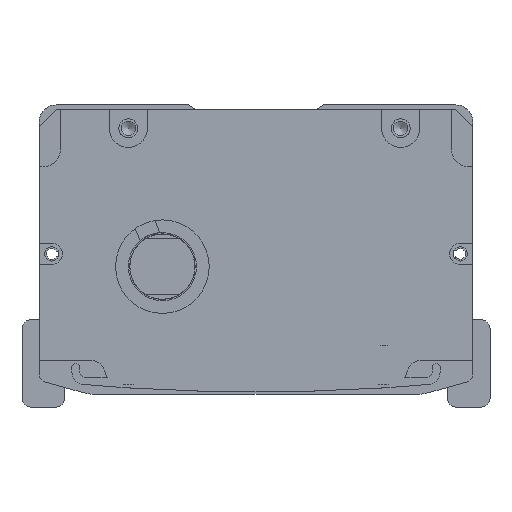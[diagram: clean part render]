
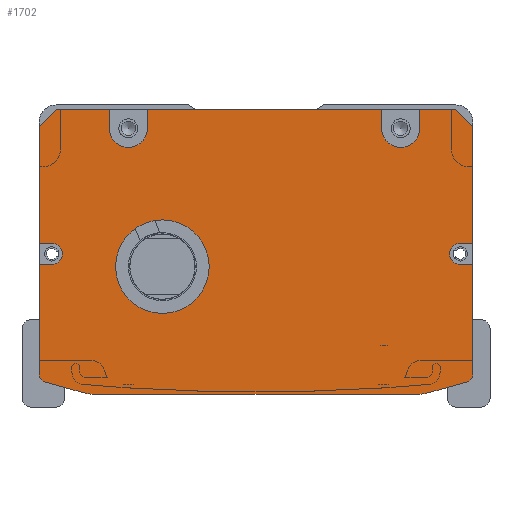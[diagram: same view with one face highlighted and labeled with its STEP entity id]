
A CAD part, front view. The second image highlights one B-rep face of the part: STEP entity #1702.
In plain terms, the highlighted planar face has unit normal (0, -1, 0).
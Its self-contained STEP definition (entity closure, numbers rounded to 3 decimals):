
#1014=FACE_BOUND('',#3192,.T.);
#1015=FACE_BOUND('',#3193,.T.);
#1702=ADVANCED_FACE('',(#1014,#1015),#2327,.F.);
#2327=PLANE('',#12171);
#3192=EDGE_LOOP('',(#5623,#5624,#5625,#5626,#5627,#5628,#5629,#5630,#5631,
#5632,#5633,#5634,#5635,#5636,#5637,#5638,#5639,#5640,#5641,#5642,#5643,
#5644,#5645,#5646,#5647,#5648,#5649,#5650));
#3193=EDGE_LOOP('',(#5651));
#4199=CIRCLE('',#12162,4.5);
#4200=CIRCLE('',#12163,4.5);
#4201=CIRCLE('',#12164,2.5);
#4202=CIRCLE('',#12165,2.);
#4203=CIRCLE('',#12166,10.);
#4204=CIRCLE('',#12167,10.);
#4205=CIRCLE('',#12168,2.);
#4206=CIRCLE('',#12169,2.5);
#4207=CIRCLE('',#12170,11.);
#5623=ORIENTED_EDGE('',*,*,#9032,.T.);
#5624=ORIENTED_EDGE('',*,*,#9452,.T.);
#5625=ORIENTED_EDGE('',*,*,#9453,.T.);
#5626=ORIENTED_EDGE('',*,*,#9454,.F.);
#5627=ORIENTED_EDGE('',*,*,#9455,.T.);
#5628=ORIENTED_EDGE('',*,*,#9456,.F.);
#5629=ORIENTED_EDGE('',*,*,#9457,.T.);
#5630=ORIENTED_EDGE('',*,*,#9458,.F.);
#5631=ORIENTED_EDGE('',*,*,#9459,.T.);
#5632=ORIENTED_EDGE('',*,*,#9460,.F.);
#5633=ORIENTED_EDGE('',*,*,#9461,.T.);
#5634=ORIENTED_EDGE('',*,*,#9462,.T.);
#5635=ORIENTED_EDGE('',*,*,#9064,.T.);
#5636=ORIENTED_EDGE('',*,*,#9463,.T.);
#5637=ORIENTED_EDGE('',*,*,#9464,.T.);
#5638=ORIENTED_EDGE('',*,*,#9465,.T.);
#5639=ORIENTED_EDGE('',*,*,#9060,.T.);
#5640=ORIENTED_EDGE('',*,*,#9466,.T.);
#5641=ORIENTED_EDGE('',*,*,#9467,.T.);
#5642=ORIENTED_EDGE('',*,*,#9468,.T.);
#5643=ORIENTED_EDGE('',*,*,#9469,.T.);
#5644=ORIENTED_EDGE('',*,*,#9470,.T.);
#5645=ORIENTED_EDGE('',*,*,#9471,.T.);
#5646=ORIENTED_EDGE('',*,*,#9472,.T.);
#5647=ORIENTED_EDGE('',*,*,#9036,.T.);
#5648=ORIENTED_EDGE('',*,*,#9473,.T.);
#5649=ORIENTED_EDGE('',*,*,#9474,.T.);
#5650=ORIENTED_EDGE('',*,*,#9475,.T.);
#5651=ORIENTED_EDGE('',*,*,#9476,.T.);
#7876=VERTEX_POINT('',#16794);
#7877=VERTEX_POINT('',#16796);
#7880=VERTEX_POINT('',#16802);
#7881=VERTEX_POINT('',#16804);
#7902=VERTEX_POINT('',#16849);
#7903=VERTEX_POINT('',#16851);
#7906=VERTEX_POINT('',#16857);
#7907=VERTEX_POINT('',#16859);
#8174=VERTEX_POINT('',#17660);
#8175=VERTEX_POINT('',#17662);
#8176=VERTEX_POINT('',#17664);
#8177=VERTEX_POINT('',#17666);
#8178=VERTEX_POINT('',#17668);
#8179=VERTEX_POINT('',#17670);
#8180=VERTEX_POINT('',#17672);
#8181=VERTEX_POINT('',#17674);
#8182=VERTEX_POINT('',#17676);
#8183=VERTEX_POINT('',#17678);
#8184=VERTEX_POINT('',#17681);
#8185=VERTEX_POINT('',#17683);
#8186=VERTEX_POINT('',#17686);
#8187=VERTEX_POINT('',#17688);
#8188=VERTEX_POINT('',#17690);
#8189=VERTEX_POINT('',#17692);
#8190=VERTEX_POINT('',#17694);
#8191=VERTEX_POINT('',#17696);
#8192=VERTEX_POINT('',#17699);
#8193=VERTEX_POINT('',#17701);
#8194=VERTEX_POINT('',#17704);
#9032=EDGE_CURVE('',#7877,#7876,#10493,.T.);
#9036=EDGE_CURVE('',#7881,#7880,#10497,.T.);
#9060=EDGE_CURVE('',#7903,#7902,#10521,.T.);
#9064=EDGE_CURVE('',#7907,#7906,#10525,.T.);
#9452=EDGE_CURVE('',#7876,#8174,#10758,.T.);
#9453=EDGE_CURVE('',#8174,#8175,#10759,.T.);
#9454=EDGE_CURVE('',#8176,#8175,#10760,.T.);
#9455=EDGE_CURVE('',#8176,#8177,#4199,.T.);
#9456=EDGE_CURVE('',#8178,#8177,#10761,.T.);
#9457=EDGE_CURVE('',#8178,#8179,#10762,.T.);
#9458=EDGE_CURVE('',#8180,#8179,#10763,.T.);
#9459=EDGE_CURVE('',#8180,#8181,#4200,.T.);
#9460=EDGE_CURVE('',#8182,#8181,#10764,.T.);
#9461=EDGE_CURVE('',#8182,#8183,#10765,.T.);
#9462=EDGE_CURVE('',#8183,#7907,#10766,.T.);
#9463=EDGE_CURVE('',#7906,#8184,#10767,.T.);
#9464=EDGE_CURVE('',#8184,#8185,#4201,.T.);
#9465=EDGE_CURVE('',#8185,#7903,#10768,.T.);
#9466=EDGE_CURVE('',#7902,#8186,#4202,.T.);
#9467=EDGE_CURVE('',#8186,#8187,#10769,.T.);
#9468=EDGE_CURVE('',#8187,#8188,#4203,.T.);
#9469=EDGE_CURVE('',#8188,#8189,#10770,.T.);
#9470=EDGE_CURVE('',#8189,#8190,#4204,.T.);
#9471=EDGE_CURVE('',#8190,#8191,#10771,.T.);
#9472=EDGE_CURVE('',#8191,#7881,#4205,.T.);
#9473=EDGE_CURVE('',#7880,#8192,#10772,.T.);
#9474=EDGE_CURVE('',#8192,#8193,#4206,.T.);
#9475=EDGE_CURVE('',#8193,#7877,#10773,.T.);
#9476=EDGE_CURVE('',#8194,#8194,#4207,.T.);
#10493=LINE('',#16795,#11146);
#10497=LINE('',#16803,#11150);
#10521=LINE('',#16850,#11174);
#10525=LINE('',#16858,#11178);
#10758=LINE('',#17659,#11411);
#10759=LINE('',#17661,#11412);
#10760=LINE('',#17663,#11413);
#10761=LINE('',#17667,#11414);
#10762=LINE('',#17669,#11415);
#10763=LINE('',#17671,#11416);
#10764=LINE('',#17675,#11417);
#10765=LINE('',#17677,#11418);
#10766=LINE('',#17679,#11419);
#10767=LINE('',#17680,#11420);
#10768=LINE('',#17684,#11421);
#10769=LINE('',#17687,#11422);
#10770=LINE('',#17691,#11423);
#10771=LINE('',#17695,#11424);
#10772=LINE('',#17698,#11425);
#10773=LINE('',#17702,#11426);
#11146=VECTOR('',#13404,1.);
#11150=VECTOR('',#13408,1.);
#11174=VECTOR('',#13434,1.);
#11178=VECTOR('',#13438,1.);
#11411=VECTOR('',#14273,1.);
#11412=VECTOR('',#14274,1.);
#11413=VECTOR('',#14275,1.);
#11414=VECTOR('',#14278,1.);
#11415=VECTOR('',#14279,1.);
#11416=VECTOR('',#14280,1.);
#11417=VECTOR('',#14283,1.);
#11418=VECTOR('',#14284,1.);
#11419=VECTOR('',#14285,1.);
#11420=VECTOR('',#14286,1.);
#11421=VECTOR('',#14289,1.);
#11422=VECTOR('',#14292,1.);
#11423=VECTOR('',#14295,1.);
#11424=VECTOR('',#14298,1.);
#11425=VECTOR('',#14301,1.);
#11426=VECTOR('',#14304,1.);
#12162=AXIS2_PLACEMENT_3D('',#17665,#14276,#14277);
#12163=AXIS2_PLACEMENT_3D('',#17673,#14281,#14282);
#12164=AXIS2_PLACEMENT_3D('',#17682,#14287,#14288);
#12165=AXIS2_PLACEMENT_3D('',#17685,#14290,#14291);
#12166=AXIS2_PLACEMENT_3D('',#17689,#14293,#14294);
#12167=AXIS2_PLACEMENT_3D('',#17693,#14296,#14297);
#12168=AXIS2_PLACEMENT_3D('',#17697,#14299,#14300);
#12169=AXIS2_PLACEMENT_3D('',#17700,#14302,#14303);
#12170=AXIS2_PLACEMENT_3D('',#17703,#14305,#14306);
#12171=AXIS2_PLACEMENT_3D('',#17705,#14307,#14308);
#13404=DIRECTION('',(0.,0.,1.));
#13408=DIRECTION('',(0.,0.,1.));
#13434=DIRECTION('',(0.,0.,-1.));
#13438=DIRECTION('',(0.,0.,-1.));
#14273=DIRECTION('',(-0.707,0.,0.707));
#14274=DIRECTION('',(-1.,0.,0.));
#14275=DIRECTION('',(0.,0.,1.));
#14276=DIRECTION('',(0.,1.,0.));
#14277=DIRECTION('',(0.,0.,1.));
#14278=DIRECTION('',(0.,0.,-1.));
#14279=DIRECTION('',(-1.,0.,0.));
#14280=DIRECTION('',(0.,0.,1.));
#14281=DIRECTION('',(0.,1.,0.));
#14282=DIRECTION('',(0.,0.,1.));
#14283=DIRECTION('',(0.,0.,-1.));
#14284=DIRECTION('',(-1.,0.,0.));
#14285=DIRECTION('',(-0.707,0.,-0.707));
#14286=DIRECTION('',(1.,0.,0.));
#14287=DIRECTION('',(0.,1.,0.));
#14288=DIRECTION('',(0.,0.,1.));
#14289=DIRECTION('',(-1.,0.,0.));
#14290=DIRECTION('',(0.,-1.,0.));
#14291=DIRECTION('',(0.,0.,1.));
#14292=DIRECTION('',(0.963,0.,-0.269));
#14293=DIRECTION('',(0.,-1.,0.));
#14294=DIRECTION('',(0.,0.,1.));
#14295=DIRECTION('',(1.,0.,0.));
#14296=DIRECTION('',(0.,-1.,0.));
#14297=DIRECTION('',(0.,0.,-1.));
#14298=DIRECTION('',(0.963,0.,0.269));
#14299=DIRECTION('',(0.,-1.,0.));
#14300=DIRECTION('',(0.,0.,-1.));
#14301=DIRECTION('',(-1.,0.,0.));
#14302=DIRECTION('',(0.,1.,0.));
#14303=DIRECTION('',(0.,0.,1.));
#14304=DIRECTION('',(1.,0.,0.));
#14305=DIRECTION('',(0.,1.,0.));
#14306=DIRECTION('',(0.,0.,1.));
#14307=DIRECTION('',(0.,1.,0.));
#14308=DIRECTION('',(1.,0.,0.));
#16794=CARTESIAN_POINT('',(47.808,-907.5,-5.));
#16795=CARTESIAN_POINT('',(47.808,-907.5,-1.));
#16796=CARTESIAN_POINT('',(47.808,-907.5,-32.5));
#16802=CARTESIAN_POINT('',(47.808,-907.5,-37.5));
#16803=CARTESIAN_POINT('',(47.808,-907.5,-1.));
#16804=CARTESIAN_POINT('',(47.808,-907.5,-63.212));
#16849=CARTESIAN_POINT('',(-54.192,-907.5,-63.212));
#16850=CARTESIAN_POINT('',(-54.192,-907.5,-62.));
#16851=CARTESIAN_POINT('',(-54.192,-907.5,-37.5));
#16857=CARTESIAN_POINT('',(-54.192,-907.5,-32.5));
#16858=CARTESIAN_POINT('',(-54.192,-907.5,-62.));
#16859=CARTESIAN_POINT('',(-54.192,-907.5,-5.));
#17659=CARTESIAN_POINT('',(43.808,-907.5,-1.));
#17660=CARTESIAN_POINT('',(43.808,-907.5,-1.));
#17661=CARTESIAN_POINT('',(-3.192,-907.5,-1.));
#17662=CARTESIAN_POINT('',(35.308,-907.5,-1.));
#17663=CARTESIAN_POINT('',(35.308,-907.5,-1.));
#17664=CARTESIAN_POINT('',(35.308,-907.5,-5.5));
#17665=CARTESIAN_POINT('',(30.808,-907.5,-5.5));
#17666=CARTESIAN_POINT('',(26.308,-907.5,-5.5));
#17667=CARTESIAN_POINT('',(26.308,-907.5,-1.));
#17668=CARTESIAN_POINT('',(26.308,-907.5,-1.));
#17669=CARTESIAN_POINT('',(-54.192,-907.5,-1.));
#17670=CARTESIAN_POINT('',(-28.692,-907.5,-1.));
#17671=CARTESIAN_POINT('',(-28.692,-907.5,-3.5));
#17672=CARTESIAN_POINT('',(-28.692,-907.5,-5.5));
#17673=CARTESIAN_POINT('',(-33.192,-907.5,-5.5));
#17674=CARTESIAN_POINT('',(-37.692,-907.5,-5.5));
#17675=CARTESIAN_POINT('',(-37.692,-907.5,-1.));
#17676=CARTESIAN_POINT('',(-37.692,-907.5,-1.));
#17677=CARTESIAN_POINT('',(-54.192,-907.5,-1.));
#17678=CARTESIAN_POINT('',(-50.192,-907.5,-1.));
#17679=CARTESIAN_POINT('',(-54.192,-907.5,-5.));
#17680=CARTESIAN_POINT('',(-3.192,-907.5,-32.5));
#17681=CARTESIAN_POINT('',(-51.192,-907.5,-32.5));
#17682=CARTESIAN_POINT('',(-51.192,-907.5,-35.));
#17683=CARTESIAN_POINT('',(-51.192,-907.5,-37.5));
#17684=CARTESIAN_POINT('',(-3.192,-907.5,-37.5));
#17685=CARTESIAN_POINT('',(-52.192,-907.5,-63.212));
#17686=CARTESIAN_POINT('',(-52.731,-907.5,-65.138));
#17687=CARTESIAN_POINT('',(-55.807,-907.5,-64.279));
#17688=CARTESIAN_POINT('',(-43.809,-907.5,-67.631));
#17689=CARTESIAN_POINT('',(-41.118,-907.5,-58.));
#17690=CARTESIAN_POINT('',(-41.118,-907.5,-68.));
#17691=CARTESIAN_POINT('',(-54.692,-907.5,-68.));
#17692=CARTESIAN_POINT('',(34.733,-907.5,-68.));
#17693=CARTESIAN_POINT('',(34.733,-907.5,-58.));
#17694=CARTESIAN_POINT('',(37.424,-907.5,-67.631));
#17695=CARTESIAN_POINT('',(49.422,-907.5,-64.279));
#17696=CARTESIAN_POINT('',(46.346,-907.5,-65.138));
#17697=CARTESIAN_POINT('',(45.808,-907.5,-63.212));
#17698=CARTESIAN_POINT('',(-3.192,-907.5,-37.5));
#17699=CARTESIAN_POINT('',(44.808,-907.5,-37.5));
#17700=CARTESIAN_POINT('',(44.808,-907.5,-35.));
#17701=CARTESIAN_POINT('',(44.808,-907.5,-32.5));
#17702=CARTESIAN_POINT('',(-3.192,-907.5,-32.5));
#17703=CARTESIAN_POINT('',(-25.192,-907.5,-38.));
#17704=CARTESIAN_POINT('',(-25.192,-907.5,-27.));
#17705=CARTESIAN_POINT('',(-3.192,-907.5,-1.));
